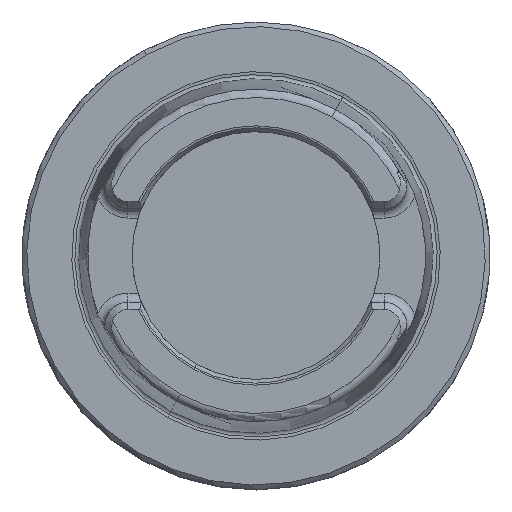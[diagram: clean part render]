
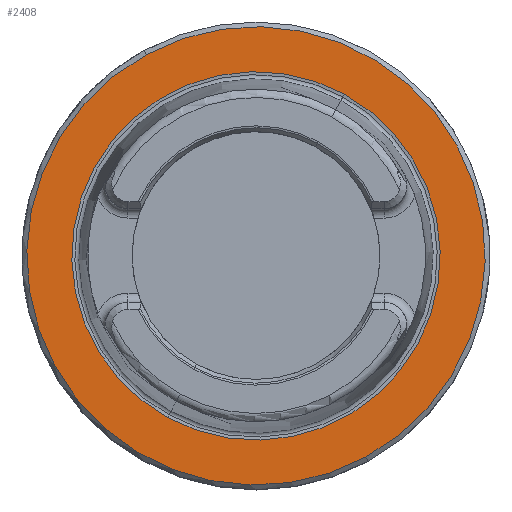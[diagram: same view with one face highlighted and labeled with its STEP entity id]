
A CAD part, top view. The second image highlights one B-rep face of the part: STEP entity #2408.
In plain terms, the highlighted planar face has unit normal (0, 0, 1).
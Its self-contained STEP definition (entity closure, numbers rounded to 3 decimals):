
#1759=AXIS2_PLACEMENT_3D('Circle Axis2P3D',#1757,#1758,$) ;
#1779=AXIS2_PLACEMENT_3D('Circle Axis2P3D',#1777,#1778,$) ;
#2384=AXIS2_PLACEMENT_3D('Plane Axis2P3D',#2381,#2382,#2383) ;
#2392=AXIS2_PLACEMENT_3D('Circle Axis2P3D',#2390,#2391,$) ;
#2401=AXIS2_PLACEMENT_3D('Circle Axis2P3D',#2399,#2400,$) ;
#1754=CARTESIAN_POINT('Vertex',(23.492,-43.002,0.)) ;
#1757=CARTESIAN_POINT('Axis2P3D Location',(0.,0.,0.)) ;
#1761=CARTESIAN_POINT('Vertex',(-23.492,43.002,0.)) ;
#1777=CARTESIAN_POINT('Axis2P3D Location',(0.,0.,0.)) ;
#2381=CARTESIAN_POINT('Axis2P3D Location',(0.,-38.285,0.)) ;
#2390=CARTESIAN_POINT('Axis2P3D Location',(0.,0.,0.)) ;
#2394=CARTESIAN_POINT('Vertex',(18.88,34.56,0.)) ;
#2396=CARTESIAN_POINT('Vertex',(-18.88,-34.56,0.)) ;
#2399=CARTESIAN_POINT('Axis2P3D Location',(0.,0.,0.)) ;
#1758=DIRECTION('Axis2P3D Direction',(0.,0.,-1.)) ;
#1778=DIRECTION('Axis2P3D Direction',(0.,0.,-1.)) ;
#2382=DIRECTION('Axis2P3D Direction',(0.,0.,-1.)) ;
#2383=DIRECTION('Axis2P3D XDirection',(-1.,0.,0.)) ;
#2391=DIRECTION('Axis2P3D Direction',(0.,0.,-1.)) ;
#2400=DIRECTION('Axis2P3D Direction',(0.,0.,-1.)) ;
#2387=ORIENTED_EDGE('',*,*,#1763,.F.) ;
#2388=ORIENTED_EDGE('',*,*,#1781,.F.) ;
#2405=ORIENTED_EDGE('',*,*,#2398,.T.) ;
#2406=ORIENTED_EDGE('',*,*,#2403,.T.) ;
#2407=FACE_BOUND('',#2404,.T.) ;
#2408=ADVANCED_FACE('NO_CUT',(#2389,#2407),#2385,.F.) ;
#1760=CIRCLE('generated circle',#1759,49.) ;
#1780=CIRCLE('generated circle',#1779,49.) ;
#2393=CIRCLE('generated circle',#2392,39.381) ;
#2402=CIRCLE('generated circle',#2401,39.381) ;
#1763=EDGE_CURVE('',#1755,#1762,#1760,.T.) ;
#1781=EDGE_CURVE('',#1762,#1755,#1780,.T.) ;
#2398=EDGE_CURVE('',#2395,#2397,#2393,.T.) ;
#2403=EDGE_CURVE('',#2397,#2395,#2402,.T.) ;
#2386=EDGE_LOOP('',(#2387,#2388)) ;
#2404=EDGE_LOOP('',(#2405,#2406)) ;
#2389=FACE_OUTER_BOUND('',#2386,.T.) ;
#2385=PLANE('',#2384) ;
#1755=VERTEX_POINT('',#1754) ;
#1762=VERTEX_POINT('',#1761) ;
#2395=VERTEX_POINT('',#2394) ;
#2397=VERTEX_POINT('',#2396) ;
